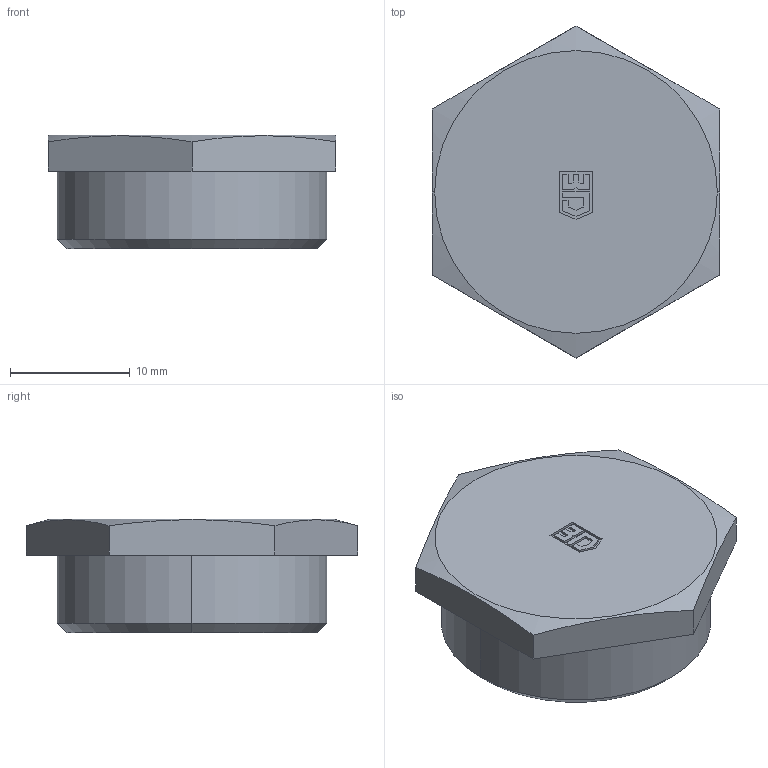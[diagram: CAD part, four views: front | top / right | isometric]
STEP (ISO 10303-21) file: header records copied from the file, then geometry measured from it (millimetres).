
FILE_DESCRIPTION (( 'STEP AP203' ), '1' );
FILE_NAME ('10.616 M.STEP', '2005-11-22T09:03:45', ( ' ' ), ( '' ), 'SwSTEP 2.0', 'SolidWorks 2005278', '' );
FILE_SCHEMA (( 'CONFIG_CONTROL_DESIGN' ));
Length unit declared in the file: millimetre
Products named in the file (1): 10.616 M
Bounding box: 24 x 27.71 x 9.5 mm (x, y, z)
Volume: 2300.7 mm3; surface area: 2040.9 mm2
Topology: 1 solids, 1 shells, 55 faces, 142 edges, 94 vertices
Faces by surface type: plane 47, cone 4, cylinder 4
Entity records: 1765 total; most frequent: CARTESIAN_POINT 344, ORIENTED_EDGE 284, DIRECTION 258, EDGE_CURVE 142, LINE 122, VECTOR 122, VERTEX_POINT 94, AXIS2_PLACEMENT_3D 68
